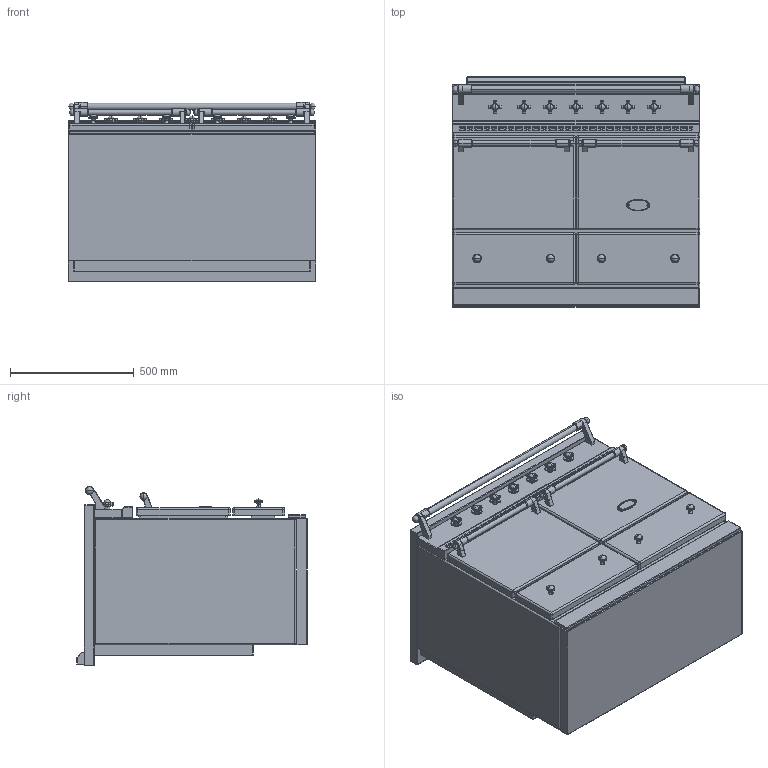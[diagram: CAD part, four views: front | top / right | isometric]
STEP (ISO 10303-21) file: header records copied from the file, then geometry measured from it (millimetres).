
FILE_DESCRIPTION((''),'2;1');
FILE_NAME('LVI1052_ASM','2014-07-07T',('p.perraut'),(''),'PRO/ENGINEER BY PARAMETRIC TECHNOLOGY CORPORATION, 2014090','PRO/ENGINEER BY PARAMETRIC TECHNOLOGY CORPORATION, 2014090','');
FILE_SCHEMA(('AP203_CONFIGURATION_CONTROLLED_3D_DESIGN_OF_MECHANICAL_PARTS_AND_ASSEMBLIES_MIM_LF { 1 0 10303 403 2 1 2 }'));
Products named in the file (17): BASE_EXPORT_CLUNY; 65650003; 65650004; 6531940; 6531941; 6538399; 1931942; 6518450; 6531942_ASM; 6531943; 65049009; 65650001; BASE_EXPORT_CLUNY_ASM; TABLE_1000_INDUCTION; 65052013; TABLE_1000_INDUCTION_ASM; LVI1052_ASM
Assembly tree (27 placements, depth 4):
  LVI1052_ASM
    BASE_EXPORT_CLUNY_ASM
      BASE_EXPORT_CLUNY
      65650003
      65650004
      6531940  x2
      6531941  x2
      6531942_ASM  x7
        6538399
        1931942
        6518450
      6531943  x4
      65049009
      65650001
    TABLE_1000_INDUCTION_ASM
      TABLE_1000_INDUCTION
      65052013
Bounding box: 1000 x 930.5 x 724 mm (x, y, z)
Volume: 524269596.7 mm3; surface area: 8719951 mm2
Topology: 36 solids, 46 shells, 3628 faces, 10090 edges, 6823 vertices
Faces by surface type: plane 1996, cylinder 944, extrusion 198, torus 182, sphere 180, cone 66, bspline 50, revolution 12
Entity records: 71955 total; most frequent: CARTESIAN_POINT 13659, DIRECTION 9631, ORIENTED_EDGE 8246, EDGE_CURVE 4133, AXIS2_PLACEMENT_3D 3257, VECTOR 3058, LINE 3028, PRESENTATION_STYLE_ASSIGNMENT 2859
